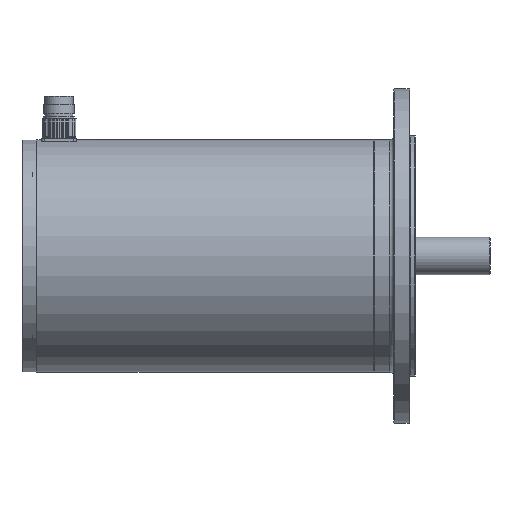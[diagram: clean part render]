
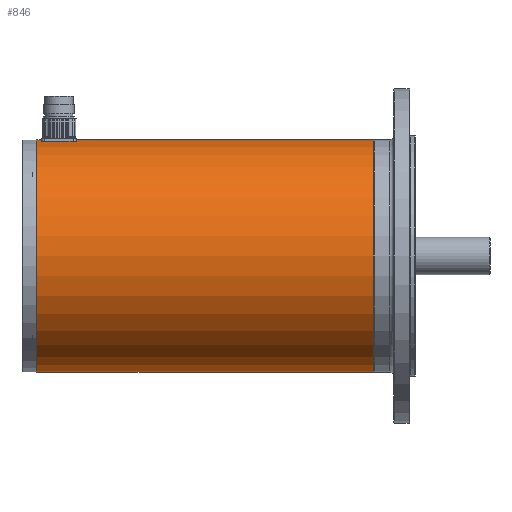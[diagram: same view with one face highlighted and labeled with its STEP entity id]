
A CAD part, left-side view. The second image highlights one B-rep face of the part: STEP entity #846.
In plain terms, the highlighted cylindrical face has radius 87 mm (diameter 174 mm), a full revolution.
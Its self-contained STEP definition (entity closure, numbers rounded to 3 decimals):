
#432=CYLINDRICAL_SURFACE('',#4694,87.);
#564=LINE('',#6954,#704);
#565=LINE('',#6959,#705);
#704=VECTOR('',#5405,1.);
#705=VECTOR('',#5408,1.);
#846=ADVANCED_FACE('',(#1484,#1485,#1486),#432,.T.);
#1484=FACE_BOUND('',#1821,.T.);
#1485=FACE_BOUND('',#1822,.T.);
#1486=FACE_BOUND('',#1823,.T.);
#1821=EDGE_LOOP('',(#2373,#2374,#2375,#2376));
#1822=EDGE_LOOP('',(#2377));
#1823=EDGE_LOOP('',(#2378));
#2373=ORIENTED_EDGE('',*,*,#3808,.F.);
#2374=ORIENTED_EDGE('',*,*,#3809,.F.);
#2375=ORIENTED_EDGE('',*,*,#3810,.F.);
#2376=ORIENTED_EDGE('',*,*,#3811,.F.);
#2377=ORIENTED_EDGE('',*,*,#3805,.T.);
#2378=ORIENTED_EDGE('',*,*,#3807,.T.);
#3396=VERTEX_POINT('',#6947);
#3398=VERTEX_POINT('',#6952);
#3399=VERTEX_POINT('',#6955);
#3400=VERTEX_POINT('',#6956);
#3401=VERTEX_POINT('',#6958);
#3402=VERTEX_POINT('',#6960);
#3805=EDGE_CURVE('',#3396,#3396,#4318,.T.);
#3807=EDGE_CURVE('',#3398,#3398,#4320,.T.);
#3808=EDGE_CURVE('',#3399,#3400,#564,.T.);
#3809=EDGE_CURVE('',#3401,#3399,#4321,.T.);
#3810=EDGE_CURVE('',#3402,#3401,#565,.T.);
#3811=EDGE_CURVE('',#3400,#3402,#4322,.T.);
#4318=CIRCLE('',#4687,87.);
#4320=CIRCLE('',#4690,87.);
#4321=CIRCLE('',#4692,87.);
#4322=CIRCLE('',#4693,87.);
#4687=AXIS2_PLACEMENT_3D('',#6946,#5395,#5396);
#4690=AXIS2_PLACEMENT_3D('',#6951,#5401,#5402);
#4692=AXIS2_PLACEMENT_3D('',#6957,#5406,#5407);
#4693=AXIS2_PLACEMENT_3D('',#6961,#5409,#5410);
#4694=AXIS2_PLACEMENT_3D('',#6962,#5411,#5412);
#5395=DIRECTION('',(0.,-1.,0.));
#5396=DIRECTION('',(0.,0.,-1.));
#5401=DIRECTION('',(0.,1.,0.));
#5402=DIRECTION('',(0.,0.,1.));
#5405=DIRECTION('',(0.,-1.,0.));
#5406=DIRECTION('',(0.,-1.,0.));
#5407=DIRECTION('',(0.,0.,1.));
#5408=DIRECTION('',(0.,1.,0.));
#5409=DIRECTION('',(0.,1.,0.));
#5410=DIRECTION('',(0.,0.,-1.));
#5411=DIRECTION('',(0.,1.,0.));
#5412=DIRECTION('',(0.,0.,1.));
#6946=CARTESIAN_POINT('',(0.,252.,0.));
#6947=CARTESIAN_POINT('',(0.,252.,-87.));
#6951=CARTESIAN_POINT('',(0.,0.,0.));
#6952=CARTESIAN_POINT('',(0.,0.,87.));
#6954=CARTESIAN_POINT('',(-15.,0.,85.697));
#6955=CARTESIAN_POINT('',(-15.,248.5,85.697));
#6956=CARTESIAN_POINT('',(-15.,222.5,85.697));
#6957=CARTESIAN_POINT('',(0.,248.5,0.));
#6958=CARTESIAN_POINT('',(15.,248.5,85.697));
#6959=CARTESIAN_POINT('',(15.,0.,85.697));
#6960=CARTESIAN_POINT('',(15.,222.5,85.697));
#6961=CARTESIAN_POINT('',(0.,222.5,0.));
#6962=CARTESIAN_POINT('',(0.,0.,0.));
